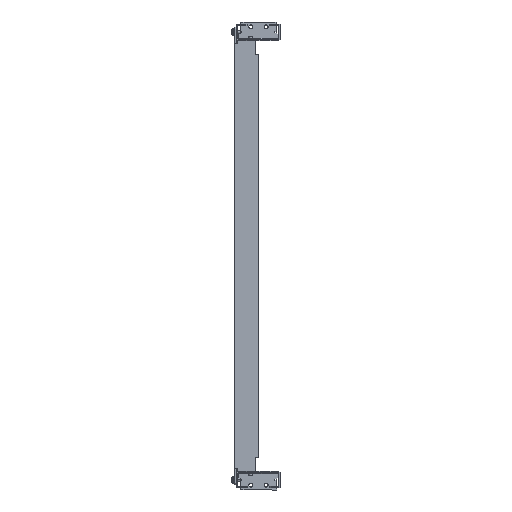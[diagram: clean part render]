
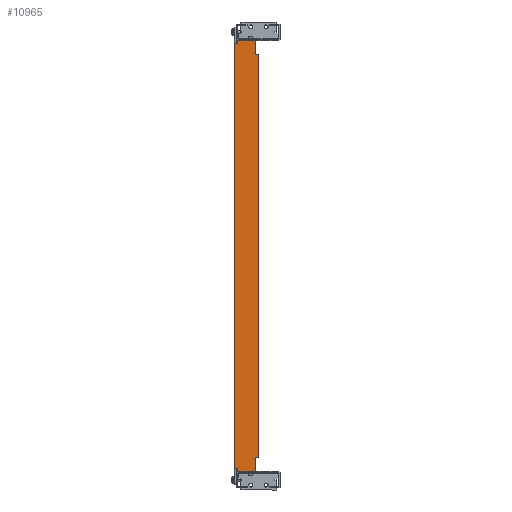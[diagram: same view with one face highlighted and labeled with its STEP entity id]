
A CAD part, left-side view. The second image highlights one B-rep face of the part: STEP entity #10965.
In plain terms, the highlighted planar face has unit normal (-1, 0, 0).
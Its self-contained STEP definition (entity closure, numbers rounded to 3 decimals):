
#937 = ORIENTED_EDGE ( 'NONE', *, *, #4809, .T. ) ;
#1005 = EDGE_CURVE ( 'NONE', #6961, #2804, #10537, .T. ) ;
#1015 = EDGE_CURVE ( 'NONE', #11760, #6961, #1916, .T. ) ;
#1184 = VECTOR ( 'NONE', #2405, 1000. ) ;
#1327 = LINE ( 'NONE', #4349, #14177 ) ;
#1420 = ORIENTED_EDGE ( 'NONE', *, *, #18968, .T. ) ;
#1778 = ORIENTED_EDGE ( 'NONE', *, *, #18774, .T. ) ;
#1852 = VERTEX_POINT ( 'NONE', #7198 ) ;
#1916 = LINE ( 'NONE', #10722, #4687 ) ;
#2210 = VECTOR ( 'NONE', #5990, 1000. ) ;
#2241 = LINE ( 'NONE', #3501, #11477 ) ;
#2376 = ORIENTED_EDGE ( 'NONE', *, *, #4011, .F. ) ;
#2405 = DIRECTION ( 'NONE',  ( 0., 1., 0. ) ) ;
#2728 = ORIENTED_EDGE ( 'NONE', *, *, #4926, .T. ) ;
#2735 = DIRECTION ( 'NONE',  ( 0., 0., -1. ) ) ;
#2804 = VERTEX_POINT ( 'NONE', #8974 ) ;
#2835 = LINE ( 'NONE', #14841, #16734 ) ;
#3090 = VERTEX_POINT ( 'NONE', #14360 ) ;
#3248 = DIRECTION ( 'NONE',  ( 0., -1., 0. ) ) ;
#3501 = CARTESIAN_POINT ( 'NONE',  ( -264.989, -33., -30.75 ) ) ;
#3626 = CARTESIAN_POINT ( 'NONE',  ( -264.989, -19., -25.75 ) ) ;
#3652 = VERTEX_POINT ( 'NONE', #10279 ) ;
#3946 = EDGE_CURVE ( 'NONE', #12905, #6205, #8507, .T. ) ;
#3991 = VECTOR ( 'NONE', #6347, 1000. ) ;
#4011 = EDGE_CURVE ( 'NONE', #11732, #12248, #7254, .T. ) ;
#4349 = CARTESIAN_POINT ( 'NONE',  ( -264.989, -33., -479. ) ) ;
#4403 = FACE_OUTER_BOUND ( 'NONE', #4473, .T. ) ;
#4473 = EDGE_LOOP ( 'NONE', ( #15760, #2728, #12303, #15868, #2376, #1420, #1778, #17400, #937, #8656, #10927, #18804, #9063, #9988 ) ) ;
#4564 = CARTESIAN_POINT ( 'NONE',  ( -264.989, -38., -49.75 ) ) ;
#4687 = VECTOR ( 'NONE', #16325, 1000. ) ;
#4775 = LINE ( 'NONE', #18107, #12758 ) ;
#4809 = EDGE_CURVE ( 'NONE', #9497, #6205, #6921, .T. ) ;
#4900 = CARTESIAN_POINT ( 'NONE',  ( -264.989, -5., -479. ) ) ;
#4926 = EDGE_CURVE ( 'NONE', #11760, #3652, #11680, .T. ) ;
#5437 = AXIS2_PLACEMENT_3D ( 'NONE', #7089, #5937, #10300 ) ;
#5489 = CARTESIAN_POINT ( 'NONE',  ( -264.989, -33., -732.25 ) ) ;
#5551 = DIRECTION ( 'NONE',  ( 0., 1., 0. ) ) ;
#5559 = CARTESIAN_POINT ( 'NONE',  ( -264.989, -5., -25.75 ) ) ;
#5863 = CARTESIAN_POINT ( 'NONE',  ( -264.989, -33., -479. ) ) ;
#5937 = DIRECTION ( 'NONE',  ( 1., 0., 0. ) ) ;
#5986 = LINE ( 'NONE', #11907, #11119 ) ;
#5990 = DIRECTION ( 'NONE',  ( 0., 0., -1. ) ) ;
#6205 = VERTEX_POINT ( 'NONE', #15938 ) ;
#6347 = DIRECTION ( 'NONE',  ( 0., 0., 1. ) ) ;
#6764 = CARTESIAN_POINT ( 'NONE',  ( -264.989, -33., -49.75 ) ) ;
#6921 = LINE ( 'NONE', #17073, #13610 ) ;
#6961 = VERTEX_POINT ( 'NONE', #4564 ) ;
#7089 = CARTESIAN_POINT ( 'NONE',  ( -264.989, -19., -479. ) ) ;
#7198 = CARTESIAN_POINT ( 'NONE',  ( -264.989, -33., -25.75 ) ) ;
#7254 = LINE ( 'NONE', #4900, #3991 ) ;
#7278 = VERTEX_POINT ( 'NONE', #11405 ) ;
#7792 = VERTEX_POINT ( 'NONE', #13919 ) ;
#8087 = LINE ( 'NONE', #3626, #8127 ) ;
#8126 = CARTESIAN_POINT ( 'NONE',  ( -264.989, -33., -479. ) ) ;
#8127 = VECTOR ( 'NONE', #3248, 1000. ) ;
#8496 = DIRECTION ( 'NONE',  ( 0., -1., 0. ) ) ;
#8507 = LINE ( 'NONE', #18564, #1184 ) ;
#8620 = EDGE_CURVE ( 'NONE', #3090, #7278, #11123, .T. ) ;
#8656 = ORIENTED_EDGE ( 'NONE', *, *, #3946, .F. ) ;
#8902 = EDGE_CURVE ( 'NONE', #7278, #2804, #5986, .T. ) ;
#8974 = CARTESIAN_POINT ( 'NONE',  ( -264.989, -38., -708.25 ) ) ;
#9063 = ORIENTED_EDGE ( 'NONE', *, *, #8902, .T. ) ;
#9497 = VERTEX_POINT ( 'NONE', #16574 ) ;
#9583 = CARTESIAN_POINT ( 'NONE',  ( -264.989, -5., -30.75 ) ) ;
#9942 = DIRECTION ( 'NONE',  ( 0., 0., 1. ) ) ;
#9988 = ORIENTED_EDGE ( 'NONE', *, *, #1005, .F. ) ;
#10038 = EDGE_CURVE ( 'NONE', #3652, #1852, #2241, .T. ) ;
#10279 = CARTESIAN_POINT ( 'NONE',  ( -264.989, -33., -30.75 ) ) ;
#10300 = DIRECTION ( 'NONE',  ( 0., 0., 1. ) ) ;
#10537 = LINE ( 'NONE', #16421, #2210 ) ;
#10722 = CARTESIAN_POINT ( 'NONE',  ( -264.989, -26.597, -49.75 ) ) ;
#10927 = ORIENTED_EDGE ( 'NONE', *, *, #14168, .F. ) ;
#10965 = ADVANCED_FACE ( 'NONE', ( #4403 ), #13011, .F. ) ;
#11119 = VECTOR ( 'NONE', #8496, 1000. ) ;
#11123 = LINE ( 'NONE', #8126, #13878 ) ;
#11405 = CARTESIAN_POINT ( 'NONE',  ( -264.989, -33., -708.25 ) ) ;
#11477 = VECTOR ( 'NONE', #12512, 1000. ) ;
#11559 = CARTESIAN_POINT ( 'NONE',  ( -264.989, -19., -727.25 ) ) ;
#11680 = LINE ( 'NONE', #5863, #13310 ) ;
#11732 = VERTEX_POINT ( 'NONE', #9583 ) ;
#11760 = VERTEX_POINT ( 'NONE', #6764 ) ;
#11907 = CARTESIAN_POINT ( 'NONE',  ( -264.989, -26.597, -708.25 ) ) ;
#11978 = VECTOR ( 'NONE', #5551, 1000. ) ;
#12248 = VERTEX_POINT ( 'NONE', #5559 ) ;
#12303 = ORIENTED_EDGE ( 'NONE', *, *, #10038, .T. ) ;
#12512 = DIRECTION ( 'NONE',  ( 0., 0., 1. ) ) ;
#12758 = VECTOR ( 'NONE', #16558, 1000. ) ;
#12905 = VERTEX_POINT ( 'NONE', #5489 ) ;
#13011 = PLANE ( 'NONE',  #5437 ) ;
#13145 = DIRECTION ( 'NONE',  ( 0., 0., -1. ) ) ;
#13310 = VECTOR ( 'NONE', #13316, 1000. ) ;
#13316 = DIRECTION ( 'NONE',  ( 0., 0., 1. ) ) ;
#13610 = VECTOR ( 'NONE', #18618, 1000. ) ;
#13878 = VECTOR ( 'NONE', #9942, 1000. ) ;
#13919 = CARTESIAN_POINT ( 'NONE',  ( -264.989, 0., -30.75 ) ) ;
#14168 = EDGE_CURVE ( 'NONE', #3090, #12905, #1327, .T. ) ;
#14177 = VECTOR ( 'NONE', #13145, 1000. ) ;
#14360 = CARTESIAN_POINT ( 'NONE',  ( -264.989, -33., -727.25 ) ) ;
#14841 = CARTESIAN_POINT ( 'NONE',  ( -264.989, 0., -479. ) ) ;
#15111 = CARTESIAN_POINT ( 'NONE',  ( -264.989, 0., -727.25 ) ) ;
#15394 = VERTEX_POINT ( 'NONE', #15111 ) ;
#15760 = ORIENTED_EDGE ( 'NONE', *, *, #1015, .F. ) ;
#15868 = ORIENTED_EDGE ( 'NONE', *, *, #18421, .F. ) ;
#15938 = CARTESIAN_POINT ( 'NONE',  ( -264.989, -5., -732.25 ) ) ;
#16325 = DIRECTION ( 'NONE',  ( 0., -1., 0. ) ) ;
#16403 = EDGE_CURVE ( 'NONE', #9497, #15394, #18779, .T. ) ;
#16421 = CARTESIAN_POINT ( 'NONE',  ( -264.989, -38., -479. ) ) ;
#16558 = DIRECTION ( 'NONE',  ( 0., 1., 0. ) ) ;
#16574 = CARTESIAN_POINT ( 'NONE',  ( -264.989, -5., -727.25 ) ) ;
#16734 = VECTOR ( 'NONE', #2735, 1000. ) ;
#17073 = CARTESIAN_POINT ( 'NONE',  ( -264.989, -5., -727.25 ) ) ;
#17400 = ORIENTED_EDGE ( 'NONE', *, *, #16403, .F. ) ;
#18107 = CARTESIAN_POINT ( 'NONE',  ( -264.989, -5., -30.75 ) ) ;
#18421 = EDGE_CURVE ( 'NONE', #12248, #1852, #8087, .T. ) ;
#18564 = CARTESIAN_POINT ( 'NONE',  ( -264.989, -19., -732.25 ) ) ;
#18618 = DIRECTION ( 'NONE',  ( 0., 0., -1. ) ) ;
#18774 = EDGE_CURVE ( 'NONE', #7792, #15394, #2835, .T. ) ;
#18779 = LINE ( 'NONE', #11559, #11978 ) ;
#18804 = ORIENTED_EDGE ( 'NONE', *, *, #8620, .T. ) ;
#18968 = EDGE_CURVE ( 'NONE', #11732, #7792, #4775, .T. ) ;
